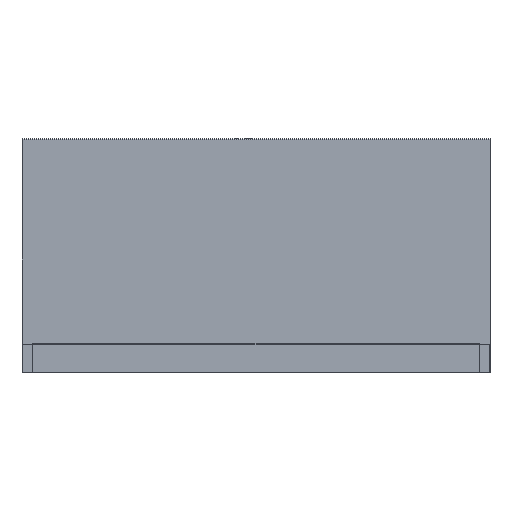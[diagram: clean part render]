
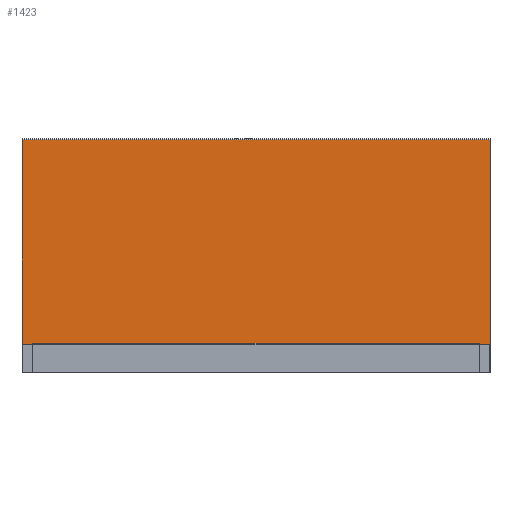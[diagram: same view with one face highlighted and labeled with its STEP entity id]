
A CAD part, front view. The second image highlights one B-rep face of the part: STEP entity #1423.
In plain terms, the highlighted planar face has unit normal (0, -1, 0).
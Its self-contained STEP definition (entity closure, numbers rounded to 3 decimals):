
#532=CARTESIAN_POINT('',(-620.,1.,82.));
#533=VERTEX_POINT('',#532);
#808=CARTESIAN_POINT('',(-620.1,1.,82.));
#809=VERTEX_POINT('',#808);
#810=CARTESIAN_POINT('',(-620.1,1.,82.));
#811=DIRECTION('',(1.,0.,-0.));
#812=VECTOR('',#811,0.1);
#813=LINE('',#810,#812);
#814=EDGE_CURVE('',#809,#533,#813,.T.);
#838=CARTESIAN_POINT('',(-620.1,1.,80.));
#839=VERTEX_POINT('',#838);
#848=CARTESIAN_POINT('',(-650.,1.,80.));
#849=VERTEX_POINT('',#848);
#850=CARTESIAN_POINT('',(-620.1,1.,80.));
#851=DIRECTION('',(-1.,0.,0.));
#852=VECTOR('',#851,29.9);
#853=LINE('',#850,#852);
#854=EDGE_CURVE('',#839,#849,#853,.T.);
#1004=CARTESIAN_POINT('',(650.,1.,80.));
#1005=VERTEX_POINT('',#1004);
#1006=CARTESIAN_POINT('',(620.1,1.,80.));
#1007=VERTEX_POINT('',#1006);
#1008=CARTESIAN_POINT('',(650.,1.,80.));
#1009=DIRECTION('',(-1.,0.,0.));
#1010=VECTOR('',#1009,29.9);
#1011=LINE('',#1008,#1010);
#1012=EDGE_CURVE('',#1005,#1007,#1011,.T.);
#1344=CARTESIAN_POINT('',(-650.,1.,648.));
#1345=VERTEX_POINT('',#1344);
#1353=CARTESIAN_POINT('',(650.,1.,648.));
#1354=VERTEX_POINT('',#1353);
#1355=CARTESIAN_POINT('',(650.,1.,648.));
#1356=DIRECTION('',(-1.,0.,0.));
#1357=VECTOR('',#1356,1300.);
#1358=LINE('',#1355,#1357);
#1359=EDGE_CURVE('',#1354,#1345,#1358,.T.);
#1372=CARTESIAN_POINT('',(650.,1.,648.));
#1373=DIRECTION('',(0.,1.,0.));
#1374=DIRECTION('',(0.,0.,1.));
#1375=AXIS2_PLACEMENT_3D('',#1372,#1373,#1374);
#1376=PLANE('',#1375);
#1377=ORIENTED_EDGE('',*,*,#854,.F.);
#1378=CARTESIAN_POINT('',(-620.1,1.,80.));
#1379=DIRECTION('',(0.,0.,1.));
#1380=VECTOR('',#1379,2.);
#1381=LINE('',#1378,#1380);
#1382=EDGE_CURVE('',#839,#809,#1381,.T.);
#1383=ORIENTED_EDGE('',*,*,#1382,.T.);
#1384=ORIENTED_EDGE('',*,*,#814,.T.);
#1385=CARTESIAN_POINT('',(620.,1.,82.));
#1386=VERTEX_POINT('',#1385);
#1387=CARTESIAN_POINT('',(-620.,1.,82.));
#1388=DIRECTION('',(1.,0.,-0.));
#1389=VECTOR('',#1388,1240.);
#1390=LINE('',#1387,#1389);
#1391=EDGE_CURVE('',#533,#1386,#1390,.T.);
#1392=ORIENTED_EDGE('',*,*,#1391,.T.);
#1393=CARTESIAN_POINT('',(620.1,1.,82.));
#1394=VERTEX_POINT('',#1393);
#1395=CARTESIAN_POINT('',(620.,1.,82.));
#1396=DIRECTION('',(1.,0.,-0.));
#1397=VECTOR('',#1396,0.1);
#1398=LINE('',#1395,#1397);
#1399=EDGE_CURVE('',#1386,#1394,#1398,.T.);
#1400=ORIENTED_EDGE('',*,*,#1399,.T.);
#1401=CARTESIAN_POINT('',(620.1,1.,82.));
#1402=DIRECTION('',(0.,0.,-1.));
#1403=VECTOR('',#1402,2.);
#1404=LINE('',#1401,#1403);
#1405=EDGE_CURVE('',#1394,#1007,#1404,.T.);
#1406=ORIENTED_EDGE('',*,*,#1405,.T.);
#1407=ORIENTED_EDGE('',*,*,#1012,.F.);
#1408=CARTESIAN_POINT('',(650.,1.,648.));
#1409=DIRECTION('',(0.,0.,-1.));
#1410=VECTOR('',#1409,568.);
#1411=LINE('',#1408,#1410);
#1412=EDGE_CURVE('',#1354,#1005,#1411,.T.);
#1413=ORIENTED_EDGE('',*,*,#1412,.F.);
#1414=ORIENTED_EDGE('',*,*,#1359,.T.);
#1415=CARTESIAN_POINT('',(-650.,1.,648.));
#1416=DIRECTION('',(0.,0.,-1.));
#1417=VECTOR('',#1416,568.);
#1418=LINE('',#1415,#1417);
#1419=EDGE_CURVE('',#1345,#849,#1418,.T.);
#1420=ORIENTED_EDGE('',*,*,#1419,.T.);
#1421=EDGE_LOOP('',(#1377,#1383,#1384,#1392,#1400,#1406,#1407,#1413,#1414,#1420));
#1422=FACE_BOUND('',#1421,.T.);
#1423=ADVANCED_FACE('',(#1422),#1376,.F.);
